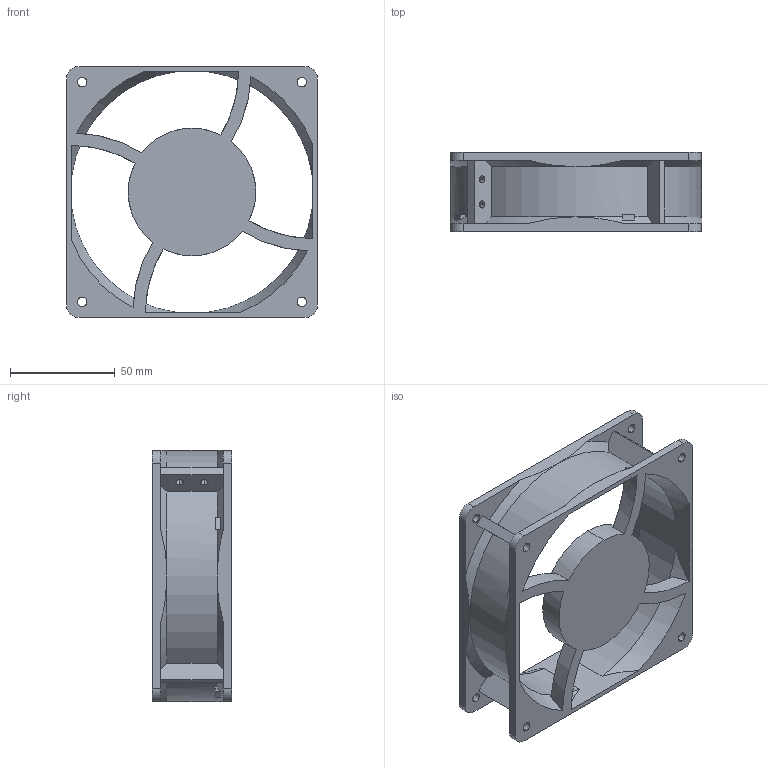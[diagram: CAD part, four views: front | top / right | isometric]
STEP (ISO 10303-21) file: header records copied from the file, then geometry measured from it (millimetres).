
FILE_DESCRIPTION (( 'STEP AP203' ), '1' );
FILE_NAME ('D12B_casing (x clienti).STEP', '2017-01-16T10:46:22', ( 'ced' ), ( 'Hewlett-Packard Company' ), 'SwSTEP 2.0', 'SolidWorks 2014', '' );
FILE_SCHEMA (( 'CONFIG_CONTROL_DESIGN' ));
Length unit declared in the file: millimetre
Products named in the file (1): D12B_casing (x clienti)
Bounding box: 120 x 38 x 120 mm (x, y, z)
Volume: 90664.6 mm3; surface area: 54858.7 mm2
Topology: 1 solids, 1 shells, 174 faces, 503 edges, 332 vertices
Faces by surface type: cylinder 79, plane 71, cone 20, torus 4
Entity records: 6330 total; most frequent: CARTESIAN_POINT 1536, ORIENTED_EDGE 1006, DIRECTION 991, EDGE_CURVE 503, AXIS2_PLACEMENT_3D 375, VERTEX_POINT 332, LINE 241, VECTOR 241
